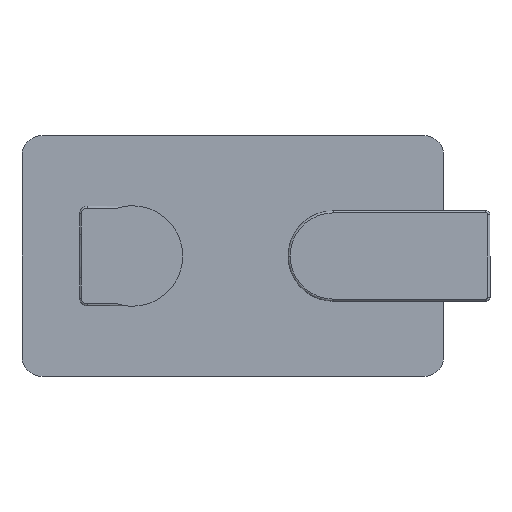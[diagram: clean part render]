
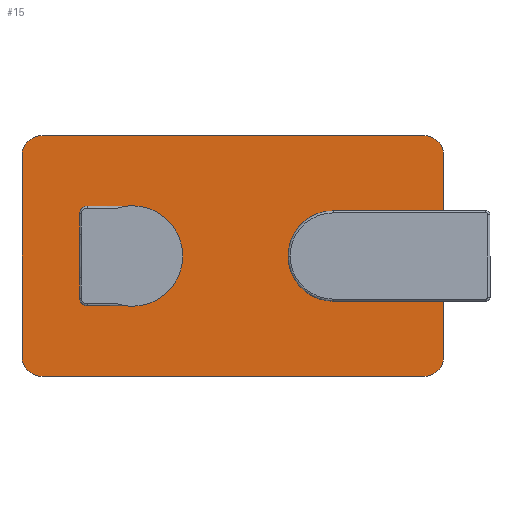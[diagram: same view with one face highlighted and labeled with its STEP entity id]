
A CAD part, front view. The second image highlights one B-rep face of the part: STEP entity #15.
In plain terms, the highlighted planar face has unit normal (0, -1, 0).
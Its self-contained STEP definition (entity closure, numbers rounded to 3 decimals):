
#15 = ADVANCED_FACE ( 'NONE', ( #2577, #3262, #1858, #2616 ), #117, .F. ) ;
#117 = PLANE ( 'NONE',  #2032 ) ;
#126 = EDGE_CURVE ( 'NONE', #163, #3540, #2948, .T. ) ;
#140 = ORIENTED_EDGE ( 'NONE', *, *, #4194, .F. ) ;
#152 = DIRECTION ( 'NONE',  ( 0., 0., -1. ) ) ;
#159 = EDGE_CURVE ( 'NONE', #2703, #3383, #1392, .T. ) ;
#163 = VERTEX_POINT ( 'NONE', #2403 ) ;
#214 = CARTESIAN_POINT ( 'NONE',  ( 18.986, 38.35, 50. ) ) ;
#223 = ORIENTED_EDGE ( 'NONE', *, *, #1110, .F. ) ;
#237 = AXIS2_PLACEMENT_3D ( 'NONE', #2188, #3832, #4161 ) ;
#250 = ORIENTED_EDGE ( 'NONE', *, *, #159, .F. ) ;
#284 = DIRECTION ( 'NONE',  ( 0., 0., 1. ) ) ;
#331 = ORIENTED_EDGE ( 'NONE', *, *, #126, .F. ) ;
#378 = DIRECTION ( 'NONE',  ( 0., 0., 1. ) ) ;
#380 = VERTEX_POINT ( 'NONE', #1396 ) ;
#444 = DIRECTION ( 'NONE',  ( 0., 1., 0. ) ) ;
#448 = CIRCLE ( 'NONE', #1648, 21.629 ) ;
#457 = CARTESIAN_POINT ( 'NONE',  ( -23.514, 38.35, 21.484 ) ) ;
#526 = DIRECTION ( 'NONE',  ( 0., 0., 1. ) ) ;
#605 = CIRCLE ( 'NONE', #2452, 21.2 ) ;
#612 = VERTEX_POINT ( 'NONE', #2750 ) ;
#702 = EDGE_CURVE ( 'NONE', #2625, #2703, #3770, .T. ) ;
#716 = CIRCLE ( 'NONE', #237, 25. ) ;
#747 = CARTESIAN_POINT ( 'NONE',  ( -171.014, 38.35, 60. ) ) ;
#761 = CARTESIAN_POINT ( 'NONE',  ( 18.986, 38.35, -50. ) ) ;
#762 = CARTESIAN_POINT ( 'NONE',  ( 18.986, 38.35, 60. ) ) ;
#786 = DIRECTION ( 'NONE',  ( 0., 0., -1. ) ) ;
#806 = ORIENTED_EDGE ( 'NONE', *, *, #1625, .F. ) ;
#834 = ORIENTED_EDGE ( 'NONE', *, *, #3596, .F. ) ;
#842 = ORIENTED_EDGE ( 'NONE', *, *, #4126, .F. ) ;
#892 = CIRCLE ( 'NONE', #2253, 10. ) ;
#903 = VERTEX_POINT ( 'NONE', #4248 ) ;
#972 = EDGE_CURVE ( 'NONE', #3523, #3008, #605, .T. ) ;
#1046 = CARTESIAN_POINT ( 'NONE',  ( -171.014, 38.35, 50. ) ) ;
#1110 = EDGE_CURVE ( 'NONE', #3008, #3523, #1208, .T. ) ;
#1115 = CARTESIAN_POINT ( 'NONE',  ( -19.111, 38.35, -20.044 ) ) ;
#1119 = VECTOR ( 'NONE', #2421, 1000. ) ;
#1121 = DIRECTION ( 'NONE',  ( 0., 1., 0. ) ) ;
#1177 = VERTEX_POINT ( 'NONE', #1622 ) ;
#1208 = CIRCLE ( 'NONE', #3666, 21.2 ) ;
#1228 = CARTESIAN_POINT ( 'NONE',  ( -176.014, 38.35, -60. ) ) ;
#1235 = AXIS2_PLACEMENT_3D ( 'NONE', #2583, #3952, #2981 ) ;
#1346 = EDGE_LOOP ( 'NONE', ( #842, #3716, #250, #1731 ) ) ;
#1392 = LINE ( 'NONE', #2775, #2732 ) ;
#1396 = CARTESIAN_POINT ( 'NONE',  ( -126.014, 38.35, 25. ) ) ;
#1397 = CARTESIAN_POINT ( 'NONE',  ( -181.014, 38.35, -50. ) ) ;
#1404 = CARTESIAN_POINT ( 'NONE',  ( -23.514, 38.35, -33. ) ) ;
#1429 = CIRCLE ( 'NONE', #3741, 25. ) ;
#1480 = VECTOR ( 'NONE', #2829, 1000. ) ;
#1498 = EDGE_CURVE ( 'NONE', #380, #903, #716, .T. ) ;
#1579 = DIRECTION ( 'NONE',  ( 0., 1., 0. ) ) ;
#1622 = CARTESIAN_POINT ( 'NONE',  ( 28.986, 38.35, -50. ) ) ;
#1625 = EDGE_CURVE ( 'NONE', #612, #3984, #4220, .T. ) ;
#1636 = VECTOR ( 'NONE', #2908, 1000. ) ;
#1648 = AXIS2_PLACEMENT_3D ( 'NONE', #2673, #3277, #284 ) ;
#1678 = VERTEX_POINT ( 'NONE', #1700 ) ;
#1691 = CARTESIAN_POINT ( 'NONE',  ( -23.514, 38.35, -21.484 ) ) ;
#1700 = CARTESIAN_POINT ( 'NONE',  ( 28.986, 38.35, 50. ) ) ;
#1728 = DIRECTION ( 'NONE',  ( 0., 0., -1. ) ) ;
#1731 = ORIENTED_EDGE ( 'NONE', *, *, #702, .F. ) ;
#1814 = CARTESIAN_POINT ( 'NONE',  ( -23.514, 38.35, 22.361 ) ) ;
#1820 = EDGE_CURVE ( 'NONE', #903, #380, #1429, .T. ) ;
#1846 = DIRECTION ( 'NONE',  ( 0., 0., 1. ) ) ;
#1858 = FACE_BOUND ( 'NONE', #2110, .T. ) ;
#1881 = CARTESIAN_POINT ( 'NONE',  ( -181.014, 38.35, 60. ) ) ;
#1886 = CARTESIAN_POINT ( 'NONE',  ( 28.986, 38.35, -60. ) ) ;
#1935 = ORIENTED_EDGE ( 'NONE', *, *, #2756, .F. ) ;
#1972 = CARTESIAN_POINT ( 'NONE',  ( -23.514, 38.35, -22.361 ) ) ;
#2013 = DIRECTION ( 'NONE',  ( 0., 0., -1. ) ) ;
#2030 = CARTESIAN_POINT ( 'NONE',  ( -171.014, 38.35, -60. ) ) ;
#2032 = AXIS2_PLACEMENT_3D ( 'NONE', #3807, #1121, #2476 ) ;
#2110 = EDGE_LOOP ( 'NONE', ( #223, #3042 ) ) ;
#2188 = CARTESIAN_POINT ( 'NONE',  ( -126.014, 38.35, 0. ) ) ;
#2191 = LINE ( 'NONE', #1881, #3555 ) ;
#2194 = ORIENTED_EDGE ( 'NONE', *, *, #3888, .F. ) ;
#2231 = DIRECTION ( 'NONE',  ( 0., -1., 0. ) ) ;
#2250 = CARTESIAN_POINT ( 'NONE',  ( -171.014, 38.35, -50. ) ) ;
#2253 = AXIS2_PLACEMENT_3D ( 'NONE', #214, #1579, #1846 ) ;
#2326 = DIRECTION ( 'NONE',  ( 0., 0., 1. ) ) ;
#2394 = VECTOR ( 'NONE', #152, 1000. ) ;
#2403 = CARTESIAN_POINT ( 'NONE',  ( -181.014, 38.35, 50. ) ) ;
#2419 = LINE ( 'NONE', #1404, #1480 ) ;
#2421 = DIRECTION ( 'NONE',  ( 1., 0., 0. ) ) ;
#2427 = CARTESIAN_POINT ( 'NONE',  ( -32.918, 38.35, 20.044 ) ) ;
#2434 = VERTEX_POINT ( 'NONE', #1691 ) ;
#2452 = AXIS2_PLACEMENT_3D ( 'NONE', #3104, #3058, #378 ) ;
#2462 = LINE ( 'NONE', #3799, #1119 ) ;
#2465 = CIRCLE ( 'NONE', #4232, 10. ) ;
#2476 = DIRECTION ( 'NONE',  ( 0., 0., 1. ) ) ;
#2478 = EDGE_LOOP ( 'NONE', ( #2527, #3370 ) ) ;
#2527 = ORIENTED_EDGE ( 'NONE', *, *, #1498, .F. ) ;
#2546 = DIRECTION ( 'NONE',  ( 0., 0., 1. ) ) ;
#2555 = EDGE_CURVE ( 'NONE', #3540, #2557, #2462, .T. ) ;
#2557 = VERTEX_POINT ( 'NONE', #762 ) ;
#2577 = FACE_OUTER_BOUND ( 'NONE', #2672, .T. ) ;
#2583 = CARTESIAN_POINT ( 'NONE',  ( -26.014, 38.35, 0. ) ) ;
#2616 = FACE_BOUND ( 'NONE', #2478, .T. ) ;
#2625 = VERTEX_POINT ( 'NONE', #1972 ) ;
#2672 = EDGE_LOOP ( 'NONE', ( #140, #3353, #2194, #4257, #331, #1935, #834, #806 ) ) ;
#2673 = CARTESIAN_POINT ( 'NONE',  ( -26.014, 38.35, 0. ) ) ;
#2676 = AXIS2_PLACEMENT_3D ( 'NONE', #2250, #2943, #2546 ) ;
#2703 = VERTEX_POINT ( 'NONE', #1814 ) ;
#2732 = VECTOR ( 'NONE', #1728, 1000. ) ;
#2750 = CARTESIAN_POINT ( 'NONE',  ( 18.986, 38.35, -60. ) ) ;
#2756 = EDGE_CURVE ( 'NONE', #2822, #163, #2191, .T. ) ;
#2775 = CARTESIAN_POINT ( 'NONE',  ( -23.514, 38.35, -33. ) ) ;
#2822 = VERTEX_POINT ( 'NONE', #1397 ) ;
#2829 = DIRECTION ( 'NONE',  ( 0., 0., -1. ) ) ;
#2908 = DIRECTION ( 'NONE',  ( -1., 0., 0. ) ) ;
#2940 = EDGE_CURVE ( 'NONE', #2434, #3383, #448, .T. ) ;
#2943 = DIRECTION ( 'NONE',  ( 0., 1., 0. ) ) ;
#2948 = CIRCLE ( 'NONE', #3355, 10. ) ;
#2981 = DIRECTION ( 'NONE',  ( 0., 0., 1. ) ) ;
#3008 = VERTEX_POINT ( 'NONE', #1115 ) ;
#3042 = ORIENTED_EDGE ( 'NONE', *, *, #972, .F. ) ;
#3058 = DIRECTION ( 'NONE',  ( 0., -1., 0. ) ) ;
#3104 = CARTESIAN_POINT ( 'NONE',  ( -26.014, 38.35, 0. ) ) ;
#3108 = CIRCLE ( 'NONE', #2676, 10. ) ;
#3169 = LINE ( 'NONE', #1886, #2394 ) ;
#3256 = CARTESIAN_POINT ( 'NONE',  ( -126.014, 38.35, 0. ) ) ;
#3262 = FACE_BOUND ( 'NONE', #1346, .T. ) ;
#3277 = DIRECTION ( 'NONE',  ( 0., -1., 0. ) ) ;
#3353 = ORIENTED_EDGE ( 'NONE', *, *, #4328, .F. ) ;
#3355 = AXIS2_PLACEMENT_3D ( 'NONE', #1046, #3425, #2013 ) ;
#3370 = ORIENTED_EDGE ( 'NONE', *, *, #1820, .F. ) ;
#3383 = VERTEX_POINT ( 'NONE', #457 ) ;
#3425 = DIRECTION ( 'NONE',  ( 0., 1., 0. ) ) ;
#3523 = VERTEX_POINT ( 'NONE', #2427 ) ;
#3540 = VERTEX_POINT ( 'NONE', #747 ) ;
#3555 = VECTOR ( 'NONE', #526, 1000. ) ;
#3596 = EDGE_CURVE ( 'NONE', #3984, #2822, #3108, .T. ) ;
#3643 = DIRECTION ( 'NONE',  ( 0., -1., 0. ) ) ;
#3666 = AXIS2_PLACEMENT_3D ( 'NONE', #3982, #3643, #2326 ) ;
#3716 = ORIENTED_EDGE ( 'NONE', *, *, #2940, .T. ) ;
#3741 = AXIS2_PLACEMENT_3D ( 'NONE', #3256, #2231, #3870 ) ;
#3770 = CIRCLE ( 'NONE', #1235, 22.5 ) ;
#3799 = CARTESIAN_POINT ( 'NONE',  ( 23.986, 38.35, 60. ) ) ;
#3807 = CARTESIAN_POINT ( 'NONE',  ( -165.101, 38.35, -15.2 ) ) ;
#3832 = DIRECTION ( 'NONE',  ( 0., -1., 0. ) ) ;
#3870 = DIRECTION ( 'NONE',  ( 0., 0., 1. ) ) ;
#3888 = EDGE_CURVE ( 'NONE', #2557, #1678, #892, .T. ) ;
#3952 = DIRECTION ( 'NONE',  ( 0., -1., 0. ) ) ;
#3982 = CARTESIAN_POINT ( 'NONE',  ( -26.014, 38.35, 0. ) ) ;
#3984 = VERTEX_POINT ( 'NONE', #2030 ) ;
#4126 = EDGE_CURVE ( 'NONE', #2434, #2625, #2419, .T. ) ;
#4161 = DIRECTION ( 'NONE',  ( 0., 0., 1. ) ) ;
#4194 = EDGE_CURVE ( 'NONE', #1177, #612, #2465, .T. ) ;
#4220 = LINE ( 'NONE', #1228, #1636 ) ;
#4232 = AXIS2_PLACEMENT_3D ( 'NONE', #761, #444, #786 ) ;
#4248 = CARTESIAN_POINT ( 'NONE',  ( -126.014, 38.35, -25. ) ) ;
#4257 = ORIENTED_EDGE ( 'NONE', *, *, #2555, .F. ) ;
#4328 = EDGE_CURVE ( 'NONE', #1678, #1177, #3169, .T. ) ;
